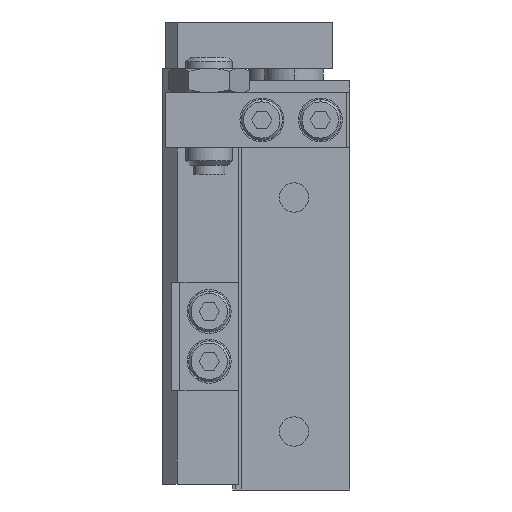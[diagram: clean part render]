
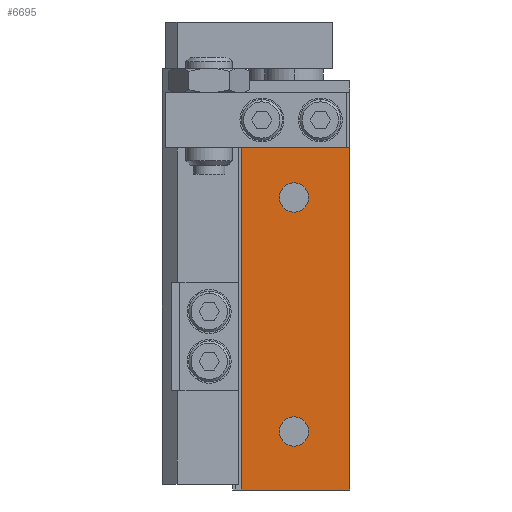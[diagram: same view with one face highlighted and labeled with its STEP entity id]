
A CAD part, left-side view. The second image highlights one B-rep face of the part: STEP entity #6695.
In plain terms, the highlighted planar face has unit normal (-1, 0, 0).
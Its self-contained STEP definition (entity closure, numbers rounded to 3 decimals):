
#24 = DIRECTION ( 'NONE',  ( -1., 0., 0. ) ) ;
#142 = DIRECTION ( 'NONE',  ( 0., 0., 1. ) ) ;
#280 = CARTESIAN_POINT ( 'NONE',  ( -25., -0.5, -25. ) ) ;
#323 = CARTESIAN_POINT ( 'NONE',  ( -25., -10., 35. ) ) ;
#351 = CIRCLE ( 'NONE', #4158, 2.5 ) ;
#368 = CARTESIAN_POINT ( 'NONE',  ( -25., -10., 35. ) ) ;
#638 = ORIENTED_EDGE ( 'NONE', *, *, #6134, .F. ) ;
#641 = VECTOR ( 'NONE', #1727, 1000. ) ;
#862 = CARTESIAN_POINT ( 'NONE',  ( -25., -0.5, 12.5 ) ) ;
#1497 = LINE ( 'NONE', #7058, #641 ) ;
#1727 = DIRECTION ( 'NONE',  ( 0., -1., 0. ) ) ;
#2393 = VERTEX_POINT ( 'NONE', #13545 ) ;
#2945 = FACE_BOUND ( 'NONE', #4022, .T. ) ;
#2996 = AXIS2_PLACEMENT_3D ( 'NONE', #13533, #12556, #6909 ) ;
#3466 = CIRCLE ( 'NONE', #11501, 2.5 ) ;
#3578 = AXIS2_PLACEMENT_3D ( 'NONE', #10183, #24, #4555 ) ;
#3591 = CARTESIAN_POINT ( 'NONE',  ( -25., -0.5, -27.5 ) ) ;
#3694 = DIRECTION ( 'NONE',  ( 0., 0., 1. ) ) ;
#3940 = AXIS2_PLACEMENT_3D ( 'NONE', #323, #10567, #8276 ) ;
#4022 = EDGE_LOOP ( 'NONE', ( #7779, #638 ) ) ;
#4158 = AXIS2_PLACEMENT_3D ( 'NONE', #280, #11790, #3694 ) ;
#4280 = EDGE_CURVE ( 'NONE', #7603, #10482, #351, .T. ) ;
#4435 = VECTOR ( 'NONE', #6373, 1000. ) ;
#4555 = DIRECTION ( 'NONE',  ( 0., 0., 1. ) ) ;
#5002 = EDGE_CURVE ( 'NONE', #10400, #11446, #5587, .T. ) ;
#5219 = CARTESIAN_POINT ( 'NONE',  ( -25., 8.5, -35. ) ) ;
#5292 = CARTESIAN_POINT ( 'NONE',  ( -25., -10., 23.5 ) ) ;
#5587 = CIRCLE ( 'NONE', #2996, 2.5 ) ;
#5995 = VECTOR ( 'NONE', #8242, 1000. ) ;
#6052 = ORIENTED_EDGE ( 'NONE', *, *, #12864, .F. ) ;
#6134 = EDGE_CURVE ( 'NONE', #10482, #7603, #3466, .T. ) ;
#6373 = DIRECTION ( 'NONE',  ( 0., 0., 1. ) ) ;
#6386 = ORIENTED_EDGE ( 'NONE', *, *, #5002, .F. ) ;
#6412 = ORIENTED_EDGE ( 'NONE', *, *, #7697, .F. ) ;
#6522 = CARTESIAN_POINT ( 'NONE',  ( -25., -0.5, -22.5 ) ) ;
#6695 = ADVANCED_FACE ( 'NONE', ( #8432, #2945, #12799 ), #9684, .F. ) ;
#6824 = ORIENTED_EDGE ( 'NONE', *, *, #10630, .T. ) ;
#6909 = DIRECTION ( 'NONE',  ( 0., 0., 1. ) ) ;
#7054 = EDGE_CURVE ( 'NONE', #11151, #2393, #1497, .T. ) ;
#7058 = CARTESIAN_POINT ( 'NONE',  ( -25., -10., -35. ) ) ;
#7066 = DIRECTION ( 'NONE',  ( 0., 1., 0. ) ) ;
#7126 = CIRCLE ( 'NONE', #3578, 2.5 ) ;
#7586 = EDGE_LOOP ( 'NONE', ( #6052, #6386 ) ) ;
#7603 = VERTEX_POINT ( 'NONE', #6522 ) ;
#7697 = EDGE_CURVE ( 'NONE', #11151, #11850, #13288, .T. ) ;
#7779 = ORIENTED_EDGE ( 'NONE', *, *, #4280, .F. ) ;
#8242 = DIRECTION ( 'NONE',  ( 0., 0., -1. ) ) ;
#8270 = EDGE_LOOP ( 'NONE', ( #6824, #6412, #14290, #10948 ) ) ;
#8276 = DIRECTION ( 'NONE',  ( 0., 0., -1. ) ) ;
#8432 = FACE_BOUND ( 'NONE', #7586, .T. ) ;
#8761 = CARTESIAN_POINT ( 'NONE',  ( -25., 8.5, -35. ) ) ;
#9281 = LINE ( 'NONE', #368, #5995 ) ;
#9684 = PLANE ( 'NONE',  #3940 ) ;
#10183 = CARTESIAN_POINT ( 'NONE',  ( -25., -0.5, 15. ) ) ;
#10400 = VERTEX_POINT ( 'NONE', #862 ) ;
#10482 = VERTEX_POINT ( 'NONE', #3591 ) ;
#10556 = LINE ( 'NONE', #11831, #11815 ) ;
#10567 = DIRECTION ( 'NONE',  ( 1., 0., 0. ) ) ;
#10580 = CARTESIAN_POINT ( 'NONE',  ( -25., -0.5, 17.5 ) ) ;
#10630 = EDGE_CURVE ( 'NONE', #14641, #11850, #10556, .T. ) ;
#10948 = ORIENTED_EDGE ( 'NONE', *, *, #13302, .F. ) ;
#11151 = VERTEX_POINT ( 'NONE', #5219 ) ;
#11446 = VERTEX_POINT ( 'NONE', #10580 ) ;
#11501 = AXIS2_PLACEMENT_3D ( 'NONE', #14656, #13592, #142 ) ;
#11790 = DIRECTION ( 'NONE',  ( -1., 0., 0. ) ) ;
#11815 = VECTOR ( 'NONE', #7066, 1000. ) ;
#11831 = CARTESIAN_POINT ( 'NONE',  ( -25., -10., 23.5 ) ) ;
#11850 = VERTEX_POINT ( 'NONE', #12269 ) ;
#12269 = CARTESIAN_POINT ( 'NONE',  ( -25., 8.5, 23.5 ) ) ;
#12556 = DIRECTION ( 'NONE',  ( -1., 0., 0. ) ) ;
#12799 = FACE_OUTER_BOUND ( 'NONE', #8270, .T. ) ;
#12864 = EDGE_CURVE ( 'NONE', #11446, #10400, #7126, .T. ) ;
#13288 = LINE ( 'NONE', #8761, #4435 ) ;
#13302 = EDGE_CURVE ( 'NONE', #14641, #2393, #9281, .T. ) ;
#13533 = CARTESIAN_POINT ( 'NONE',  ( -25., -0.5, 15. ) ) ;
#13545 = CARTESIAN_POINT ( 'NONE',  ( -25., -10., -35. ) ) ;
#13592 = DIRECTION ( 'NONE',  ( -1., 0., 0. ) ) ;
#14290 = ORIENTED_EDGE ( 'NONE', *, *, #7054, .T. ) ;
#14641 = VERTEX_POINT ( 'NONE', #5292 ) ;
#14656 = CARTESIAN_POINT ( 'NONE',  ( -25., -0.5, -25. ) ) ;
